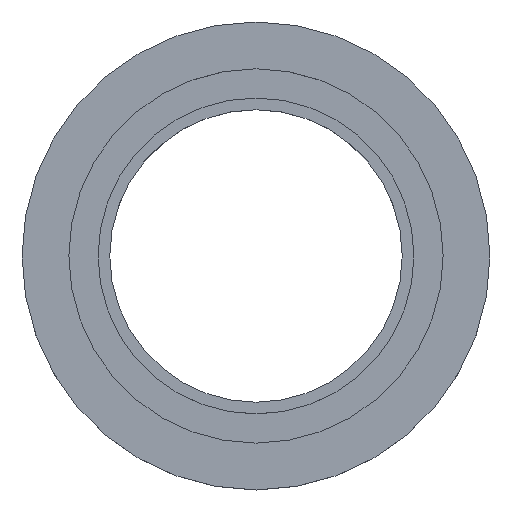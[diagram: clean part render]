
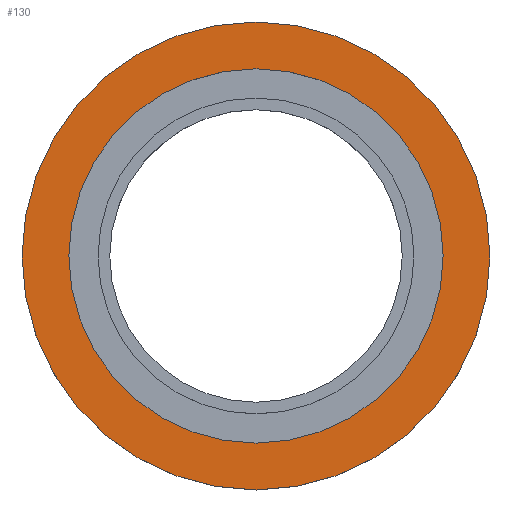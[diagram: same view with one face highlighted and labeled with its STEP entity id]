
A CAD part, top view. The second image highlights one B-rep face of the part: STEP entity #130.
In plain terms, the highlighted planar face has unit normal (0, 0, 1).
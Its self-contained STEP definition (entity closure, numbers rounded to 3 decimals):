
#28=FACE_BOUND('',#44,.T.);
#34=FACE_OUTER_BOUND('',#43,.T.);
#43=EDGE_LOOP('',(#104,#105));
#44=EDGE_LOOP('',(#106));
#54=CIRCLE('',#160,16.);
#55=CIRCLE('',#162,20.);
#56=CIRCLE('',#163,20.);
#66=VERTEX_POINT('',#230);
#67=VERTEX_POINT('',#234);
#68=VERTEX_POINT('',#235);
#78=EDGE_CURVE('',#66,#66,#54,.T.);
#80=EDGE_CURVE('',#67,#68,#55,.T.);
#81=EDGE_CURVE('',#68,#67,#56,.T.);
#104=ORIENTED_EDGE('',*,*,#80,.T.);
#105=ORIENTED_EDGE('',*,*,#81,.T.);
#106=ORIENTED_EDGE('',*,*,#78,.T.);
#124=PLANE('',#166);
#130=ADVANCED_FACE('',(#34,#28),#124,.T.);
#160=AXIS2_PLACEMENT_3D('',#231,#187,#188);
#162=AXIS2_PLACEMENT_3D('',#236,#192,#193);
#163=AXIS2_PLACEMENT_3D('',#237,#194,#195);
#166=AXIS2_PLACEMENT_3D('',#243,#201,#202);
#187=DIRECTION('center_axis',(0.,0.,-1.));
#188=DIRECTION('ref_axis',(-1.,0.,0.));
#192=DIRECTION('center_axis',(0.,0.,1.));
#193=DIRECTION('ref_axis',(1.,0.,0.));
#194=DIRECTION('center_axis',(0.,0.,1.));
#195=DIRECTION('ref_axis',(1.,0.,0.));
#201=DIRECTION('center_axis',(0.,0.,1.));
#202=DIRECTION('ref_axis',(1.,0.,0.));
#230=CARTESIAN_POINT('',(16.,0.,2.));
#231=CARTESIAN_POINT('Origin',(0.,0.,2.));
#234=CARTESIAN_POINT('',(20.,0.,2.));
#235=CARTESIAN_POINT('',(-20.,0.,2.));
#236=CARTESIAN_POINT('Origin',(0.,0.,2.));
#237=CARTESIAN_POINT('Origin',(0.,0.,2.));
#243=CARTESIAN_POINT('Origin',(0.,0.,2.));
